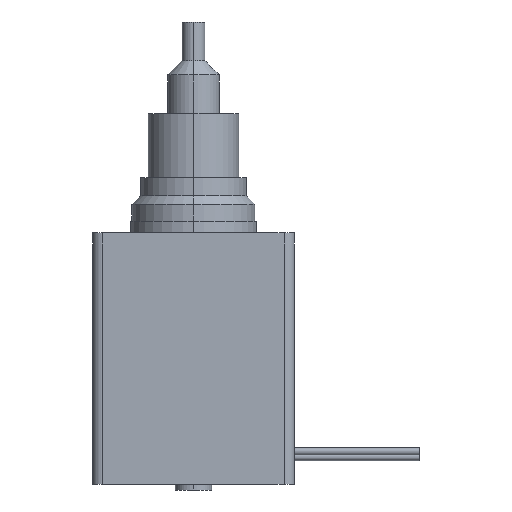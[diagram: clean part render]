
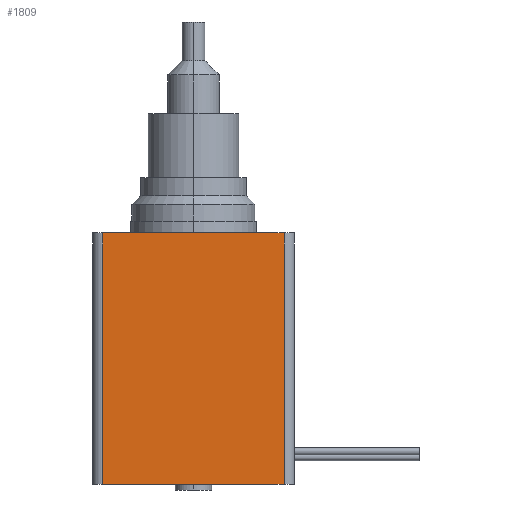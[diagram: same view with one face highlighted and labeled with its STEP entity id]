
A CAD part, left-side view. The second image highlights one B-rep face of the part: STEP entity #1809.
In plain terms, the highlighted planar face has unit normal (-1, 0, 0).
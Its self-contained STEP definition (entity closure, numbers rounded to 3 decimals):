
#31 = CARTESIAN_POINT ( 'NONE',  ( -17.6, -15.8, -43.86 ) ) ;
#62 = EDGE_CURVE ( 'NONE', #1444, #2495, #472, .T. ) ;
#106 = EDGE_CURVE ( 'NONE', #1444, #1584, #700, .T. ) ;
#269 = CARTESIAN_POINT ( 'NONE',  ( -17.6, 15.8, -43.86 ) ) ;
#284 = DIRECTION ( 'NONE',  ( 0., -1., 0. ) ) ;
#360 = ORIENTED_EDGE ( 'NONE', *, *, #62, .T. ) ;
#391 = DIRECTION ( 'NONE',  ( 0., -1., 0. ) ) ;
#468 = EDGE_CURVE ( 'NONE', #1262, #1584, #2668, .T. ) ;
#469 = LINE ( 'NONE', #2076, #1184 ) ;
#472 = LINE ( 'NONE', #269, #2890 ) ;
#474 = CARTESIAN_POINT ( 'NONE',  ( -17.6, 15.8, 0. ) ) ;
#520 = ORIENTED_EDGE ( 'NONE', *, *, #468, .T. ) ;
#575 = PLANE ( 'NONE',  #1086 ) ;
#700 = LINE ( 'NONE', #1165, #2790 ) ;
#728 = DIRECTION ( 'NONE',  ( 0., 0., -1. ) ) ;
#786 = ORIENTED_EDGE ( 'NONE', *, *, #1950, .T. ) ;
#918 = ORIENTED_EDGE ( 'NONE', *, *, #106, .F. ) ;
#987 = CARTESIAN_POINT ( 'NONE',  ( -17.6, -15.8, -43.86 ) ) ;
#1086 = AXIS2_PLACEMENT_3D ( 'NONE', #2243, #2428, #391 ) ;
#1165 = CARTESIAN_POINT ( 'NONE',  ( -17.6, 17.6, 0. ) ) ;
#1184 = VECTOR ( 'NONE', #1386, 1000. ) ;
#1197 = EDGE_LOOP ( 'NONE', ( #786, #520, #918, #360 ) ) ;
#1262 = VERTEX_POINT ( 'NONE', #31 ) ;
#1270 = CARTESIAN_POINT ( 'NONE',  ( -17.6, -15.8, 0. ) ) ;
#1386 = DIRECTION ( 'NONE',  ( 0., -1., 0. ) ) ;
#1444 = VERTEX_POINT ( 'NONE', #474 ) ;
#1491 = DIRECTION ( 'NONE',  ( 0., 0., 1. ) ) ;
#1549 = CARTESIAN_POINT ( 'NONE',  ( -17.6, 15.8, -43.86 ) ) ;
#1584 = VERTEX_POINT ( 'NONE', #1270 ) ;
#1809 = ADVANCED_FACE ( 'NONE', ( #2381 ), #575, .T. ) ;
#1950 = EDGE_CURVE ( 'NONE', #2495, #1262, #469, .T. ) ;
#2076 = CARTESIAN_POINT ( 'NONE',  ( -17.6, 17.6, -43.86 ) ) ;
#2243 = CARTESIAN_POINT ( 'NONE',  ( -17.6, 17.6, -43.86 ) ) ;
#2381 = FACE_OUTER_BOUND ( 'NONE', #1197, .T. ) ;
#2428 = DIRECTION ( 'NONE',  ( -1., 0., 0. ) ) ;
#2495 = VERTEX_POINT ( 'NONE', #1549 ) ;
#2668 = LINE ( 'NONE', #987, #2896 ) ;
#2790 = VECTOR ( 'NONE', #284, 1000. ) ;
#2890 = VECTOR ( 'NONE', #728, 1000. ) ;
#2896 = VECTOR ( 'NONE', #1491, 1000. ) ;
